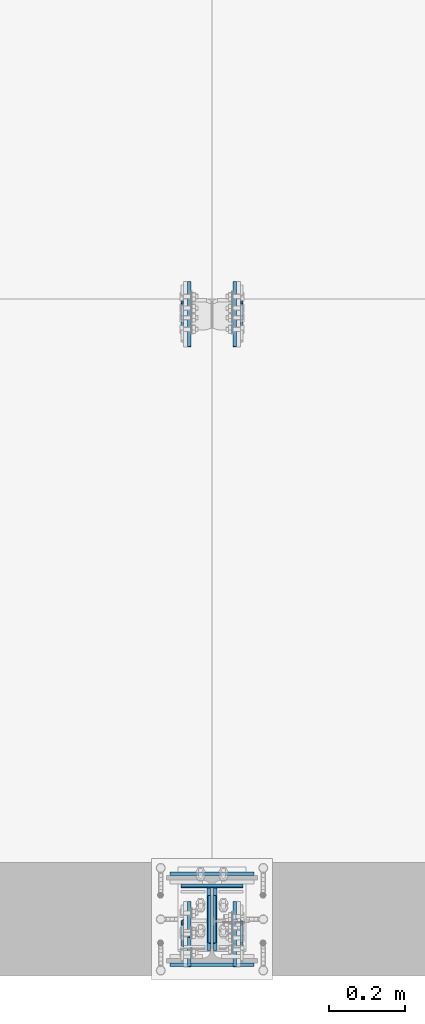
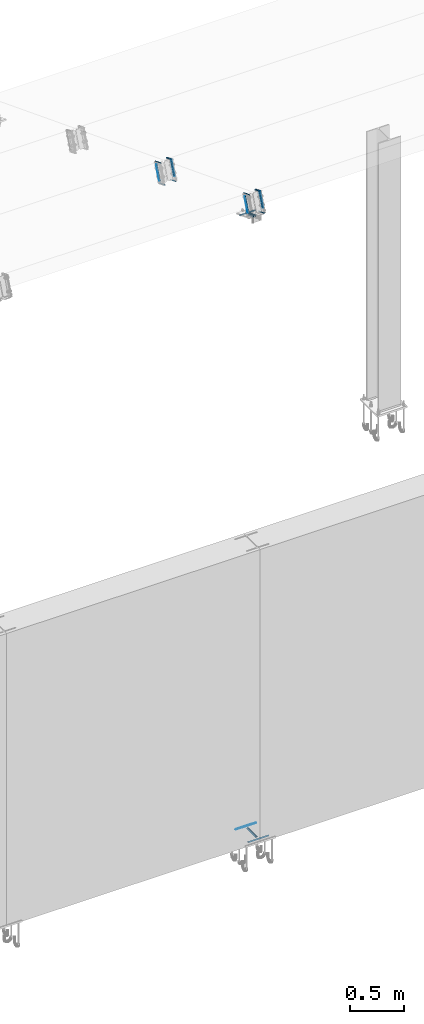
# One storey, part 16 of 72: 38 fasteners.
"""IFC4 building model written with IfcOpenShell, lengths in metres."""

from ifc_helpers import new_model, si_unit, frame, origin_with_axes, place, context, project, spatial, polyline, outline, extrude, type_object, element, save


model = new_model("IFC4")

# Units and contexts
model_context = context("Model", 3, precision=1e-05, world=origin_with_axes())
ifc_project = project(units=[si_unit("LENGTHUNIT", "METRE"), si_unit("AREAUNIT", "SQUARE_METRE"), si_unit("VOLUMEUNIT", "CUBIC_METRE"), si_unit("MASSUNIT", "GRAM", prefix="KILO"), si_unit("TIMEUNIT", "SECOND"), si_unit("PLANEANGLEUNIT", "RADIAN"), si_unit("SOLIDANGLEUNIT", "STERADIAN"), si_unit("THERMODYNAMICTEMPERATUREUNIT", "DEGREE_CELSIUS")], contexts=[model_context])

# Site, building, storey
placement_1 = place(None, origin_with_axes())
site = spatial("IfcSite", under=ifc_project, at=placement_1, Name="Italia", CompositionType="ELEMENT")
building = spatial("IfcBuilding", under=site, at=placement_1, Name="Uffici", CompositionType="ELEMENT")
storey = spatial("IfcBuildingStorey", under=building, at=placement_1, Name="Storey 0", CompositionType="ELEMENT", Elevation=0.0)

# Fasteners
fastener_type_1 = type_object("IfcFastenerType", Name="Collegamento -029_-028", PredefinedType="WELD")
placement_2 = place(placement_1, origin_with_axes())
fastener_1_placement = place(placement_2, origin_with_axes())
element("IfcFastener", 1, at=fastener_1_placement, inside=storey, type_object=fastener_type_1, Name="Collegamento -029_-028", context=model_context, shape_type="SweptSolid", body=[
    extrude(outline(polyline([(0.0, 0.0), (-0.00717354, 0.00695848), (0.0, 0.00695848), (0.0, 0.0)])), frame((9.38005, 1.63499, 6.58409), z_axis=(0.0, -0.361462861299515, -0.932386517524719), x_axis=(1.0, 0.0, 0.0)), (0.0, 0.0, 1.0), 0.1591),
])
fastener_type_2 = type_object("IfcFastenerType", Name="Collegamento -029_-028", PredefinedType="WELD")
fastener_2_placement = place(placement_2, origin_with_axes())
element("IfcFastener", 2, at=fastener_2_placement, inside=storey, type_object=fastener_type_2, Name="Collegamento -029_-028", context=model_context, shape_type="SweptSolid", body=[
    extrude(outline(polyline([(0.0, 0.0), (0.00717354, -0.00695837), (0.0, -0.00695837), (0.0, 0.0)])), frame((9.38005, 1.55938, 6.44277), z_axis=(0.0, 0.36146154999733, 0.932386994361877), x_axis=(-1.0, 0.0, 0.0)), (0.0, 0.0, 1.0), 0.1591),
])
fastener_type_3 = type_object("IfcFastenerType", Name="Collegamento -029_-028", PredefinedType="WELD")
fastener_3_placement = place(placement_2, origin_with_axes())
element("IfcFastener", 3, at=fastener_3_placement, inside=storey, type_object=fastener_type_3, Name="Collegamento -029_-028", context=model_context, shape_type="SweptSolid", body=[
    extrude(outline(polyline([(0.0, 0.0), (-0.00717354, 0.00695848), (0.0, 0.00695848), (0.0, 0.0)])), frame((9.38005, 1.63499, 6.58409), z_axis=(0.0, -0.361462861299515, -0.932386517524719), x_axis=(1.0, 0.0, 0.0)), (0.0, 0.0, 1.0), 0.1591),
])
fastener_type_4 = type_object("IfcFastenerType", Name="Collegamento -029_-028", PredefinedType="WELD")
fastener_4_placement = place(placement_2, origin_with_axes())
element("IfcFastener", 4, at=fastener_4_placement, inside=storey, type_object=fastener_type_4, Name="Collegamento -029_-028", context=model_context, shape_type="SweptSolid", body=[
    extrude(outline(polyline([(0.0, 0.0), (0.00717354, -0.00695837), (0.0, -0.00695837), (0.0, 0.0)])), frame((9.38005, 1.55938, 6.44277), z_axis=(0.0, 0.36146154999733, 0.932386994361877), x_axis=(-1.0, 0.0, 0.0)), (0.0, 0.0, 1.0), 0.1591),
])
fastener_type_5 = type_object("IfcFastenerType", Name="Collegamento -029_-028", PredefinedType="WELD")
fastener_5_placement = place(placement_2, origin_with_axes())
element("IfcFastener", 5, at=fastener_5_placement, inside=storey, type_object=fastener_type_5, Name="Collegamento -029_-028", context=model_context, shape_type="SweptSolid", body=[
    extrude(outline(polyline([(0.0, 0.0), (0.00937271, -0.00909233), (0.0, -0.00909233), (0.0, 0.0)])), frame((9.40005, 1.51041, 6.42806), z_axis=(0.0, 0.932386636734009, -0.361462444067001), x_axis=(-1.0, 0.0, 0.0)), (0.0, 0.0, 1.0), 0.1001),
])
fastener_type_6 = type_object("IfcFastenerType", Name="Collegamento -029_-028", PredefinedType="WELD")
fastener_6_placement = place(placement_2, origin_with_axes())
element("IfcFastener", 6, at=fastener_6_placement, inside=storey, type_object=fastener_type_6, Name="Collegamento -029_-028", context=model_context, shape_type="SweptSolid", body=[
    extrude(outline(polyline([(0.0, 0.0), (-0.00937271, 0.00909185), (0.0, 0.00909185), (0.0, 0.0)])), frame((9.40005, 1.67673, 6.58014), z_axis=(0.0, -0.932386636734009, 0.361462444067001), x_axis=(1.0, 0.0, 0.0)), (0.0, 0.0, 1.0), 0.1001),
])
fastener_type_7 = type_object("IfcFastenerType", Name="Collegamento -029_-030", PredefinedType="WELD")
fastener_7_placement = place(placement_2, origin_with_axes())
element("IfcFastener", 7, at=fastener_7_placement, inside=storey, type_object=fastener_type_7, Name="Collegamento -029_-030", context=model_context, shape_type="SweptSolid", body=[
    extrude(outline(polyline([(0.0, 0.0), (-0.00717354, 0.00695825), (0.0, 0.00695825), (0.0, 0.0)])), frame((9.52995, 1.57748, 6.43575), z_axis=(0.0, 0.361462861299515, 0.932386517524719), x_axis=(-1.0, 0.0, 0.0)), (0.0, 0.0, 1.0), 0.1591),
])
fastener_type_8 = type_object("IfcFastenerType", Name="Collegamento -029_-030", PredefinedType="WELD")
fastener_8_placement = place(placement_2, origin_with_axes())
element("IfcFastener", 8, at=fastener_8_placement, inside=storey, type_object=fastener_type_8, Name="Collegamento -029_-030", context=model_context, shape_type="SweptSolid", body=[
    extrude(outline(polyline([(0.0, 0.0), (0.00717354, -0.00695813), (0.0, -0.00695813), (0.0, 0.0)])), frame((9.52995, 1.61689, 6.59111), z_axis=(0.0, -0.36146154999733, -0.932386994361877), x_axis=(1.0, 0.0, 0.0)), (0.0, 0.0, 1.0), 0.1591),
])
fastener_type_9 = type_object("IfcFastenerType", Name="Collegamento -029_-030", PredefinedType="WELD")
fastener_9_placement = place(placement_2, origin_with_axes())
element("IfcFastener", 9, at=fastener_9_placement, inside=storey, type_object=fastener_type_9, Name="Collegamento -029_-030", context=model_context, shape_type="SweptSolid", body=[
    extrude(outline(polyline([(0.0, 0.0), (-0.00717354, 0.00695825), (0.0, 0.00695825), (0.0, 0.0)])), frame((9.52995, 1.57748, 6.43575), z_axis=(0.0, 0.361462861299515, 0.932386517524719), x_axis=(-1.0, 0.0, 0.0)), (0.0, 0.0, 1.0), 0.1591),
])
fastener_type_10 = type_object("IfcFastenerType", Name="Collegamento -029_-030", PredefinedType="WELD")
fastener_10_placement = place(placement_2, origin_with_axes())
element("IfcFastener", 10, at=fastener_10_placement, inside=storey, type_object=fastener_type_10, Name="Collegamento -029_-030", context=model_context, shape_type="SweptSolid", body=[
    extrude(outline(polyline([(0.0, 0.0), (0.00717354, -0.00695813), (0.0, -0.00695813), (0.0, 0.0)])), frame((9.52995, 1.61689, 6.59111), z_axis=(0.0, -0.36146154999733, -0.932386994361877), x_axis=(1.0, 0.0, 0.0)), (0.0, 0.0, 1.0), 0.1591),
])
fastener_type_11 = type_object("IfcFastenerType", Name="Collegamento -029_-030", PredefinedType="WELD")
fastener_11_placement = place(placement_2, origin_with_axes())
element("IfcFastener", 11, at=fastener_11_placement, inside=storey, type_object=fastener_type_11, Name="Collegamento -029_-030", context=model_context, shape_type="SweptSolid", body=[
    extrude(outline(polyline([(0.0, 0.0), (0.00937271, -0.00909233), (0.0, -0.00909233), (0.0, 0.0)])), frame((9.50995, 1.60375, 6.39188), z_axis=(0.0, -0.932386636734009, 0.361462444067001), x_axis=(1.0, 0.0, 0.0)), (0.0, 0.0, 1.0), 0.1001),
])
fastener_type_12 = type_object("IfcFastenerType", Name="Collegamento -029_-030", PredefinedType="WELD")
fastener_12_placement = place(placement_2, origin_with_axes())
element("IfcFastener", 12, at=fastener_12_placement, inside=storey, type_object=fastener_type_12, Name="Collegamento -029_-030", context=model_context, shape_type="SweptSolid", body=[
    extrude(outline(polyline([(0.0, 0.0), (-0.00937271, 0.00909233), (0.0, 0.00909233), (0.0, 0.0)])), frame((9.50995, 1.5834, 6.61633), z_axis=(0.0, 0.932386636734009, -0.361462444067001), x_axis=(-1.0, 0.0, 0.0)), (0.0, 0.0, 1.0), 0.1001),
])
fastener_type_13 = type_object("IfcFastenerType", Name="Collegamenti 0001_0101 0002_0102 0003_0103 0004_0104 0005_0105 0011_0111 0012_0112 0013_0113 0014_0114 0015_0115", PredefinedType="WELD")
fastener_13_placement = place(placement_2, origin_with_axes())
element("IfcFastener", 13, at=fastener_13_placement, inside=storey, type_object=fastener_type_13, Name="Collegamenti 0001_0101 0002_0102 0003_0103 0004_0104 0005_0105 0011_0111 0012_0112 0013_0113 0014_0114 0015_0115", context=model_context, shape_type="SweptSolid", body=[
    extrude(outline(polyline([(0.0, 0.0), (0.00986816, 0.0101734), (0.00986816, 0.0), (0.0, 0.0)])), frame((9.56505, 0.124818, 0.01995), z_axis=(-1.0, 6.7701649e-08, 0.0), x_axis=(-6.7701649e-08, -1.0, 0.0)), (0.0, 0.0, 1.0), 0.2201),
])
fastener_type_14 = type_object("IfcFastenerType", Name="Collegamenti 0001_0101 0002_0102 0003_0103 0004_0104 0005_0105 0011_0111 0012_0112 0013_0113 0014_0114 0015_0115", PredefinedType="WELD")
fastener_14_placement = place(placement_2, origin_with_axes())
element("IfcFastener", 14, at=fastener_14_placement, inside=storey, type_object=fastener_type_14, Name="Collegamenti 0001_0101 0002_0102 0003_0103 0004_0104 0005_0105 0011_0111 0012_0112 0013_0113 0014_0114 0015_0115", context=model_context, shape_type="SweptSolid", body=[
    extrude(outline(polyline([(0.0, 0.0), (0.00986816, 0.0101734), (0.00986816, 0.0), (0.0, 0.0)])), frame((9.34495, -0.124818, 0.01995), z_axis=(1.0, -6.7701649e-08, 0.0), x_axis=(6.7701649e-08, 1.0, 0.0)), (0.0, 0.0, 1.0), 0.2201),
])
fastener_type_15 = type_object("IfcFastenerType", Name="Collegamenti 0001_0101 0002_0102 0003_0103 0004_0104 0005_0105 0011_0111 0012_0112 0013_0113 0014_0114 0015_0115", PredefinedType="WELD")
fastener_15_placement = place(placement_2, origin_with_axes())
element("IfcFastener", 15, at=fastener_15_placement, inside=storey, type_object=fastener_type_15, Name="Collegamenti 0001_0101 0002_0102 0003_0103 0004_0104 0005_0105 0011_0111 0012_0112 0013_0113 0014_0114 0015_0115", context=model_context, shape_type="SweptSolid", body=[
    extrude(outline(polyline([(0.0, 0.0), (0.00986767, 0.0101734), (0.00986767, 0.0), (0.0, 0.0)])), frame((9.46857, -0.08205, 0.01995), z_axis=(0.0, 1.0, 0.0), x_axis=(-1.0, 0.0, 0.0)), (0.0, 0.0, 1.0), 0.1641),
])
fastener_type_16 = type_object("IfcFastenerType", Name="Collegamenti 0001_0101 0002_0102 0003_0103 0004_0104 0005_0105 0011_0111 0012_0112 0013_0113 0014_0114 0015_0115", PredefinedType="WELD")
fastener_16_placement = place(placement_2, origin_with_axes())
element("IfcFastener", 16, at=fastener_16_placement, inside=storey, type_object=fastener_type_16, Name="Collegamenti 0001_0101 0002_0102 0003_0103 0004_0104 0005_0105 0011_0111 0012_0112 0013_0113 0014_0114 0015_0115", context=model_context, shape_type="SweptSolid", body=[
    extrude(outline(polyline([(0.0, 0.0), (0.00986767, 0.0101734), (0.00986767, 0.0), (0.0, 0.0)])), frame((9.44143, 0.08205, 0.01995), z_axis=(0.0, -1.0, 0.0), x_axis=(1.0, 0.0, 0.0)), (0.0, 0.0, 1.0), 0.1641),
])
fastener_type_17 = type_object("IfcFastenerType", Name="Collegamenti 0001_0101 0002_0102 0003_0103 0004_0104 0005_0105 0011_0111 0012_0112 0013_0113 0014_0114 0015_0115", PredefinedType="WELD")
fastener_17_placement = place(placement_2, origin_with_axes())
element("IfcFastener", 17, at=fastener_17_placement, inside=storey, type_object=fastener_type_17, Name="Collegamenti 0001_0101 0002_0102 0003_0103 0004_0104 0005_0105 0011_0111 0012_0112 0013_0113 0014_0114 0015_0115", context=model_context, shape_type="SweptSolid", body=[
    extrude(outline(polyline([(0.0, 0.0), (0.00986816, 0.0101734), (0.00986816, 0.0), (0.0, 0.0)])), frame((9.56505, 0.124818, 0.01995), z_axis=(-1.0, 6.7701649e-08, 0.0), x_axis=(-6.7701649e-08, -1.0, 0.0)), (0.0, 0.0, 1.0), 0.2201),
])
fastener_type_18 = type_object("IfcFastenerType", Name="Collegamenti 0001_0101 0002_0102 0003_0103 0004_0104 0005_0105 0011_0111 0012_0112 0013_0113 0014_0114 0015_0115", PredefinedType="WELD")
fastener_18_placement = place(placement_2, origin_with_axes())
element("IfcFastener", 18, at=fastener_18_placement, inside=storey, type_object=fastener_type_18, Name="Collegamenti 0001_0101 0002_0102 0003_0103 0004_0104 0005_0105 0011_0111 0012_0112 0013_0113 0014_0114 0015_0115", context=model_context, shape_type="SweptSolid", body=[
    extrude(outline(polyline([(0.0, 0.0), (0.00986816, 0.0101734), (0.00986816, 0.0), (0.0, 0.0)])), frame((9.34495, -0.124818, 0.01995), z_axis=(1.0, -6.7701649e-08, 0.0), x_axis=(6.7701649e-08, 1.0, 0.0)), (0.0, 0.0, 1.0), 0.2201),
])
fastener_type_19 = type_object("IfcFastenerType", Name="Collegamenti 0001_0101 0002_0102 0003_0103 0004_0104 0005_0105 0011_0111 0012_0112 0013_0113 0014_0114 0015_0115", PredefinedType="WELD")
fastener_19_placement = place(placement_2, origin_with_axes())
element("IfcFastener", 19, at=fastener_19_placement, inside=storey, type_object=fastener_type_19, Name="Collegamenti 0001_0101 0002_0102 0003_0103 0004_0104 0005_0105 0011_0111 0012_0112 0013_0113 0014_0114 0015_0115", context=model_context, shape_type="SweptSolid", body=[
    extrude(outline(polyline([(0.0, 0.0), (0.00986767, 0.0101734), (0.00986767, 0.0), (0.0, 0.0)])), frame((9.46857, -0.08205, 0.01995), z_axis=(0.0, 1.0, 0.0), x_axis=(-1.0, 0.0, 0.0)), (0.0, 0.0, 1.0), 0.1641),
])
fastener_type_20 = type_object("IfcFastenerType", Name="Collegamenti 0001_0101 0002_0102 0003_0103 0004_0104 0005_0105 0011_0111 0012_0112 0013_0113 0014_0114 0015_0115", PredefinedType="WELD")
fastener_20_placement = place(placement_2, origin_with_axes())
element("IfcFastener", 20, at=fastener_20_placement, inside=storey, type_object=fastener_type_20, Name="Collegamenti 0001_0101 0002_0102 0003_0103 0004_0104 0005_0105 0011_0111 0012_0112 0013_0113 0014_0114 0015_0115", context=model_context, shape_type="SweptSolid", body=[
    extrude(outline(polyline([(0.0, 0.0), (0.00986767, 0.0101734), (0.00986767, 0.0), (0.0, 0.0)])), frame((9.44143, 0.08205, 0.01995), z_axis=(0.0, -1.0, 0.0), x_axis=(1.0, 0.0, 0.0)), (0.0, 0.0, 1.0), 0.1641),
])
fastener_type_21 = type_object("IfcFastenerType", Name="Collegamento 0204_0104", PredefinedType="WELD")
fastener_21_placement = place(placement_2, origin_with_axes())
element("IfcFastener", 21, at=fastener_21_placement, inside=storey, type_object=fastener_type_21, Name="Collegamento 0204_0104", context=model_context, shape_type="SweptSolid", body=[
    extrude(outline(polyline([(0.0, 0.0), (-0.0103468, -0.00475407), (-0.00739191, 0.00286627), (0.0, 0.0)])), frame((9.37295, 0.0928638, 6.952), z_axis=(1.0, 0.0, 0.0), x_axis=(0.0, 1.0, 0.0)), (0.0, 0.0, 1.0), 0.164101),
])
fastener_type_22 = type_object("IfcFastenerType", Name="Collegamento 0204_0104", PredefinedType="WELD")
fastener_22_placement = place(placement_2, origin_with_axes())
element("IfcFastener", 22, at=fastener_22_placement, inside=storey, type_object=fastener_type_22, Name="Collegamento 0204_0104", context=model_context, shape_type="SweptSolid", body=[
    extrude(outline(polyline([(0.0, 0.0), (-0.00792789, -0.00817299), (-0.00792789, 0.0), (0.0, 0.0)])), frame((9.46588, 0.0620796, 6.96393), z_axis=(0.0, -0.932361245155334, 0.361528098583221), x_axis=(1.0, 0.0, 0.0)), (0.0, 0.0, 1.0), 0.133127),
])
fastener_type_23 = type_object("IfcFastenerType", Name="Collegamento 0204_0104", PredefinedType="WELD")
fastener_23_placement = place(placement_2, origin_with_axes())
element("IfcFastener", 23, at=fastener_23_placement, inside=storey, type_object=fastener_type_23, Name="Collegamento 0204_0104", context=model_context, shape_type="SweptSolid", body=[
    extrude(outline(polyline([(0.0, 0.0), (-0.00792789, -0.00817299), (-0.00792789, 0.0), (0.0, 0.0)])), frame((9.44412, -0.0620427, 7.01206), z_axis=(0.0, 0.932361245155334, -0.361528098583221), x_axis=(-1.0, 0.0, 0.0)), (0.0, 0.0, 1.0), 0.133127),
])
fastener_type_24 = type_object("IfcFastenerType", Name="Collegamento 0204_0104", PredefinedType="WELD")
fastener_24_placement = place(placement_2, origin_with_axes())
element("IfcFastener", 24, at=fastener_24_placement, inside=storey, type_object=fastener_type_24, Name="Collegamento 0204_0104", context=model_context, shape_type="SweptSolid", body=[
    extrude(outline(polyline([(0.0, 0.0), (-0.0103468, -0.00475407), (-0.00739191, 0.00286627), (0.0, 0.0)])), frame((9.37295, 0.0928638, 6.952), z_axis=(1.0, 0.0, 0.0), x_axis=(0.0, 1.0, 0.0)), (0.0, 0.0, 1.0), 0.164101),
])
fastener_type_25 = type_object("IfcFastenerType", Name="Collegamento 0204_0104", PredefinedType="WELD")
fastener_25_placement = place(placement_2, origin_with_axes())
element("IfcFastener", 25, at=fastener_25_placement, inside=storey, type_object=fastener_type_25, Name="Collegamento 0204_0104", context=model_context, shape_type="SweptSolid", body=[
    extrude(outline(polyline([(0.0, 0.0), (-0.00792789, -0.00817299), (-0.00792789, 0.0), (0.0, 0.0)])), frame((9.46588, 0.0620796, 6.96393), z_axis=(0.0, -0.932361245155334, 0.361528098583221), x_axis=(1.0, 0.0, 0.0)), (0.0, 0.0, 1.0), 0.133127),
])
fastener_type_26 = type_object("IfcFastenerType", Name="Collegamento 0204_0104", PredefinedType="WELD")
fastener_26_placement = place(placement_2, origin_with_axes())
element("IfcFastener", 26, at=fastener_26_placement, inside=storey, type_object=fastener_type_26, Name="Collegamento 0204_0104", context=model_context, shape_type="SweptSolid", body=[
    extrude(outline(polyline([(0.0, 0.0), (-0.00792789, -0.00817299), (-0.00792789, 0.0), (0.0, 0.0)])), frame((9.44412, -0.0620427, 7.01206), z_axis=(0.0, 0.932361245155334, -0.361528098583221), x_axis=(-1.0, 0.0, 0.0)), (0.0, 0.0, 1.0), 0.133127),
])
fastener_type_27 = type_object("IfcFastenerType", Name="Collegamento 0204_0203", PredefinedType="WELD")
fastener_27_placement = place(placement_2, origin_with_axes())
element("IfcFastener", 27, at=fastener_27_placement, inside=storey, type_object=fastener_type_27, Name="Collegamento 0204_0203", context=model_context, shape_type="SweptSolid", body=[
    extrude(outline(polyline([(0.0, 0.0), (-0.00717354, 0.00695801), (0.0, 0.00695801), (0.0, 0.0)])), frame((9.38005, 0.00165956, 7.21742), z_axis=(0.0, -0.361462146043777, -0.932386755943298), x_axis=(1.0, 0.0, 0.0)), (0.0, 0.0, 1.0), 0.1591),
])
fastener_type_28 = type_object("IfcFastenerType", Name="Collegamento 0204_0203", PredefinedType="WELD")
fastener_28_placement = place(placement_2, origin_with_axes())
element("IfcFastener", 28, at=fastener_28_placement, inside=storey, type_object=fastener_type_28, Name="Collegamento 0204_0203", context=model_context, shape_type="SweptSolid", body=[
    extrude(outline(polyline([(0.0, 0.0), (0.00717354, -0.00695825), (0.0, -0.00695825), (0.0, 0.0)])), frame((9.38005, -0.0739523, 7.0761), z_axis=(0.0, 0.36146005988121, 0.932387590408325), x_axis=(-1.0, 0.0, 0.0)), (0.0, 0.0, 1.0), 0.1591),
])
fastener_type_29 = type_object("IfcFastenerType", Name="Collegamento 0204_0203", PredefinedType="WELD")
fastener_29_placement = place(placement_2, origin_with_axes())
element("IfcFastener", 29, at=fastener_29_placement, inside=storey, type_object=fastener_type_29, Name="Collegamento 0204_0203", context=model_context, shape_type="SweptSolid", body=[
    extrude(outline(polyline([(0.0, 0.0), (-0.00717354, 0.00695801), (0.0, 0.00695801), (0.0, 0.0)])), frame((9.38005, 0.00165956, 7.21742), z_axis=(0.0, -0.361462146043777, -0.932386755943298), x_axis=(1.0, 0.0, 0.0)), (0.0, 0.0, 1.0), 0.1591),
])
fastener_type_30 = type_object("IfcFastenerType", Name="Collegamento 0204_0203", PredefinedType="WELD")
fastener_30_placement = place(placement_2, origin_with_axes())
element("IfcFastener", 30, at=fastener_30_placement, inside=storey, type_object=fastener_type_30, Name="Collegamento 0204_0203", context=model_context, shape_type="SweptSolid", body=[
    extrude(outline(polyline([(0.0, 0.0), (0.00717354, -0.00695825), (0.0, -0.00695825), (0.0, 0.0)])), frame((9.38005, -0.0739523, 7.0761), z_axis=(0.0, 0.36146005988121, 0.932387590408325), x_axis=(-1.0, 0.0, 0.0)), (0.0, 0.0, 1.0), 0.1591),
])
fastener_type_31 = type_object("IfcFastenerType", Name="Collegamento 0204_0203", PredefinedType="WELD")
fastener_31_placement = place(placement_2, origin_with_axes())
element("IfcFastener", 31, at=fastener_31_placement, inside=storey, type_object=fastener_type_31, Name="Collegamento 0204_0203", context=model_context, shape_type="SweptSolid", body=[
    extrude(outline(polyline([(0.0, 0.0), (0.00937271, -0.00909233), (0.0, -0.00909233), (0.0, 0.0)])), frame((9.40005, -0.122918, 7.0614), z_axis=(0.0, 0.932386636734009, -0.361462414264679), x_axis=(-1.0, 0.0, 0.0)), (0.0, 0.0, 1.0), 0.1001),
])
fastener_type_32 = type_object("IfcFastenerType", Name="Collegamento 0204_0203", PredefinedType="WELD")
fastener_32_placement = place(placement_2, origin_with_axes())
element("IfcFastener", 32, at=fastener_32_placement, inside=storey, type_object=fastener_type_32, Name="Collegamento 0204_0203", context=model_context, shape_type="SweptSolid", body=[
    extrude(outline(polyline([(0.0, 0.0), (-0.00937271, 0.00909233), (0.0, 0.00909233), (0.0, 0.0)])), frame((9.40005, 0.0433989, 7.21348), z_axis=(0.0, -0.932386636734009, 0.361462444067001), x_axis=(1.0, 0.0, 0.0)), (0.0, 0.0, 1.0), 0.1001),
])
fastener_type_33 = type_object("IfcFastenerType", Name="Collegamento 0204_0205", PredefinedType="WELD")
fastener_33_placement = place(placement_2, origin_with_axes())
element("IfcFastener", 33, at=fastener_33_placement, inside=storey, type_object=fastener_type_33, Name="Collegamento 0204_0205", context=model_context, shape_type="SweptSolid", body=[
    extrude(outline(polyline([(0.0, 0.0), (-0.00717354, 0.00695801), (0.0, 0.00695801), (0.0, 0.0)])), frame((9.52995, -0.055849, 7.06908), z_axis=(0.0, 0.3614621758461, 0.932386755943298), x_axis=(-1.0, 0.0, 0.0)), (0.0, 0.0, 1.0), 0.1591),
])
fastener_type_34 = type_object("IfcFastenerType", Name="Collegamento 0204_0205", PredefinedType="WELD")
fastener_34_placement = place(placement_2, origin_with_axes())
element("IfcFastener", 34, at=fastener_34_placement, inside=storey, type_object=fastener_type_34, Name="Collegamento 0204_0205", context=model_context, shape_type="SweptSolid", body=[
    extrude(outline(polyline([(0.0, 0.0), (0.00717354, -0.00695825), (0.0, -0.00695825), (0.0, 0.0)])), frame((9.52995, -0.0164439, 7.22444), z_axis=(0.0, -0.361460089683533, -0.932387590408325), x_axis=(1.0, 0.0, 0.0)), (0.0, 0.0, 1.0), 0.1591),
])
fastener_type_35 = type_object("IfcFastenerType", Name="Collegamento 0204_0205", PredefinedType="WELD")
fastener_35_placement = place(placement_2, origin_with_axes())
element("IfcFastener", 35, at=fastener_35_placement, inside=storey, type_object=fastener_type_35, Name="Collegamento 0204_0205", context=model_context, shape_type="SweptSolid", body=[
    extrude(outline(polyline([(0.0, 0.0), (-0.00717354, 0.00695801), (0.0, 0.00695801), (0.0, 0.0)])), frame((9.52995, -0.055849, 7.06908), z_axis=(0.0, 0.3614621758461, 0.932386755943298), x_axis=(-1.0, 0.0, 0.0)), (0.0, 0.0, 1.0), 0.1591),
])
fastener_type_36 = type_object("IfcFastenerType", Name="Collegamento 0204_0205", PredefinedType="WELD")
fastener_36_placement = place(placement_2, origin_with_axes())
element("IfcFastener", 36, at=fastener_36_placement, inside=storey, type_object=fastener_type_36, Name="Collegamento 0204_0205", context=model_context, shape_type="SweptSolid", body=[
    extrude(outline(polyline([(0.0, 0.0), (0.00717354, -0.00695825), (0.0, -0.00695825), (0.0, 0.0)])), frame((9.52995, -0.0164439, 7.22444), z_axis=(0.0, -0.361460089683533, -0.932387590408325), x_axis=(1.0, 0.0, 0.0)), (0.0, 0.0, 1.0), 0.1591),
])
fastener_type_37 = type_object("IfcFastenerType", Name="Collegamento 0204_0205", PredefinedType="WELD")
fastener_37_placement = place(placement_2, origin_with_axes())
element("IfcFastener", 37, at=fastener_37_placement, inside=storey, type_object=fastener_type_37, Name="Collegamento 0204_0205", context=model_context, shape_type="SweptSolid", body=[
    extrude(outline(polyline([(0.0, 0.0), (0.00937271, -0.00909233), (0.0, -0.00909233), (0.0, 0.0)])), frame((9.50995, -0.0295861, 7.02522), z_axis=(0.0, -0.932386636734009, 0.361462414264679), x_axis=(1.0, 0.0, 0.0)), (0.0, 0.0, 1.0), 0.1001),
])
fastener_type_38 = type_object("IfcFastenerType", Name="Collegamento 0204_0205", PredefinedType="WELD")
fastener_38_placement = place(placement_2, origin_with_axes())
element("IfcFastener", 38, at=fastener_38_placement, inside=storey, type_object=fastener_type_38, Name="Collegamento 0204_0205", context=model_context, shape_type="SweptSolid", body=[
    extrude(outline(polyline([(0.0, 0.0), (-0.00937271, 0.00909233), (0.0, 0.00909233), (0.0, 0.0)])), frame((9.50995, -0.049933, 7.24966), z_axis=(0.0, 0.932386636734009, -0.361462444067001), x_axis=(-1.0, 0.0, 0.0)), (0.0, 0.0, 1.0), 0.1001),
])

save(model, "model.ifc")
